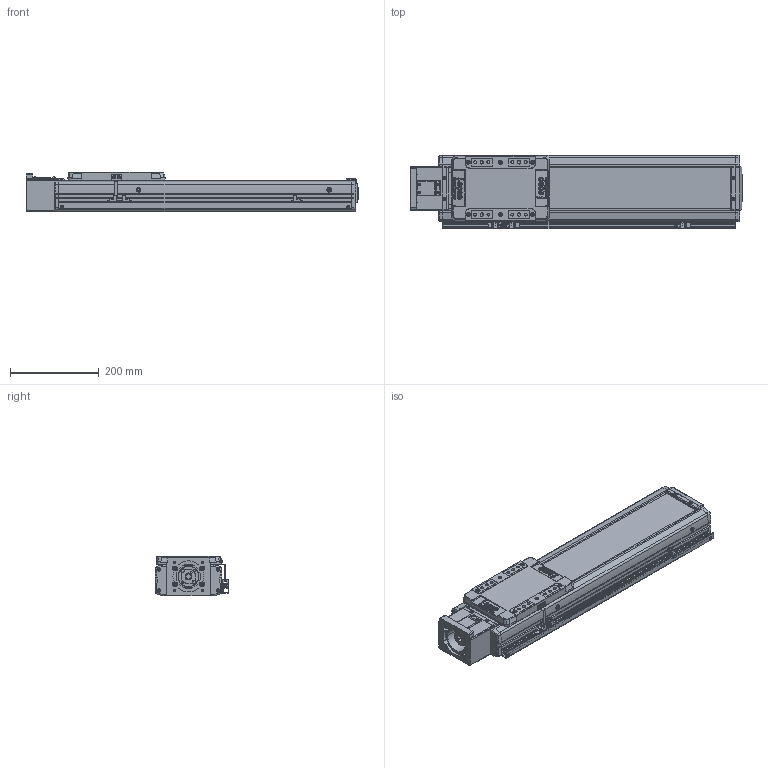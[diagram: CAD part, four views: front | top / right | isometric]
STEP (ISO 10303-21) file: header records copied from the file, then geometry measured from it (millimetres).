
FILE_DESCRIPTION(('STEP AP214'),'1');
FILE_NAME('Z:/Web/3D/SAN150/2013.04 (STP.)/SAN150ㅁㅁ-400S+3SR.stp','2013-05-07T23:51:03',(' '),(' '),'Spatial InterOp 3D',' ',' ');
FILE_SCHEMA(('automotive_design'));
Length unit declared in the file: millimetre
Products named in the file (93): SLBL-SAN150; SLCV-SAN150; FHCS M4.0 x 8.0; BHCS M4.0 x 10.0; SFX-SAN150; RRCV-SAN150; FRBL-SAN150; Spacer; RN15; FRCV-SAN150; Screw 20; BASE-SAN150-000L ; SUS COVER; 스크루 : Round - M5.0 x 6.0; BHCS M3.0 x 6.0; SSFX-SAN65; CPLCV-SAN65; SDWA47C(2); SDWA47C(3-1); SDWA47C(3); SDWA47C(1); SDWA47C(4); SDWA47C(5); MTHZ-SAN150-80; M3.0 x 6.0; SRL-16x17-360L; SGD-SAN150; EE-SX674; SBK-SX674-352; 스크루 : Round - M3.0 x 6.0
Bounding box: 749 x 166 x 90 mm (x, y, z)
Volume: 4583801.6 mm3; surface area: 952632.8 mm2
Topology: 93 solids, 93 shells, 3326 faces, 8646 edges, 5604 vertices
Faces by surface type: plane 1563, cylinder 1253, cone 389, sphere 76, bspline 29, torus 16
Entity records: 133792 total; most frequent: CARTESIAN_POINT 21251, DIRECTION 18699, ORIENTED_EDGE 17076, EDGE_CURVE 8538, AXIS2_PLACEMENT_3D 6919, VERTEX_POINT 5604, LINE 4861, VECTOR 4861
